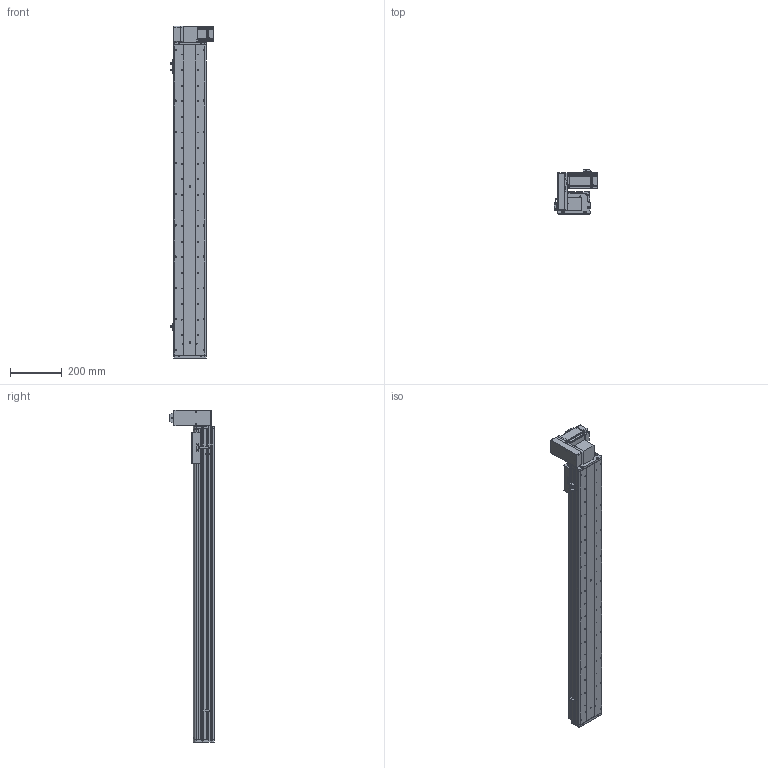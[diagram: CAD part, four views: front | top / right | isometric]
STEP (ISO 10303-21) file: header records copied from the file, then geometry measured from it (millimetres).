
FILE_DESCRIPTION (( 'STEP AP214' ), '1' );
FILE_NAME ('KSD125B-S1000-MRU-CM.STEP', '2017-10-21T07:39:42', ( '微软用户' ), ( '微软中国' ), 'SwSTEP 2.0', 'SolidWorks 2014', '' );
FILE_SCHEMA (( 'AUTOMOTIVE_DESIGN' ));
Length unit declared in the file: millimetre
Products named in the file (17): 125模组1000行程同步带-底板; MHMD042G1CA_2_03; KSD125模组同步带-防撞垫2; 覜茼え68遵圉猾敕; U倰嫖萇假蚾璃; U倰嫖萇EEㄜSX672; KSD125模组同步带-防撞垫1; 100宽马达安装板同步带右; 前端板-125宽模组同步带; 125模组同步带-尾端板1; KSD125模组同步带-滑动座1; KSD125B-S1000-MRU-CM; 悵誘欶奻狟殏; HTPA30S3M150_A_H6_a佪裝蚚; HTPA30S3M150_A_H6_a萇儂蚚; 100宽马达安装板连板上下折丝杆同步带; KSD125模组1000行程同步带-防尘盖
Assembly tree (20 placements, depth 2):
  KSD125B-S1000-MRU-CM
    KSD125模组同步带-滑动座1
    125模组同步带-尾端板1
    前端板-125宽模组同步带
    100宽马达安装板同步带右
    KSD125模组同步带-防撞垫1
    U倰嫖萇EEㄜSX672  x3
    U倰嫖萇假蚾璃  x3
    覜茼え68遵圉猾敕
    KSD125模组同步带-防撞垫2
    MHMD042G1CA_2_03
    125模组1000行程同步带-底板
    KSD125模组1000行程同步带-防尘盖
    100宽马达安装板连板上下折丝杆同步带
    HTPA30S3M150_A_H6_a萇儂蚚
    HTPA30S3M150_A_H6_a佪裝蚚
    悵誘欶奻狟殏
Bounding box: 168.7 x 170.5 x 1277 mm (x, y, z)
Volume: 3926602.1 mm3; surface area: 1320149.5 mm2
Topology: 19 solids, 22 shells, 2311 faces, 6697 edges, 4426 vertices
Faces by surface type: cylinder 1456, plane 728, cone 105, bspline 22
Entity records: 82343 total; most frequent: CARTESIAN_POINT 16239, DIRECTION 12798, ORIENTED_EDGE 11914, EDGE_CURVE 6035, AXIS2_PLACEMENT_3D 4953, VERTEX_POINT 4018, VECTOR 2892, LINE 2892
